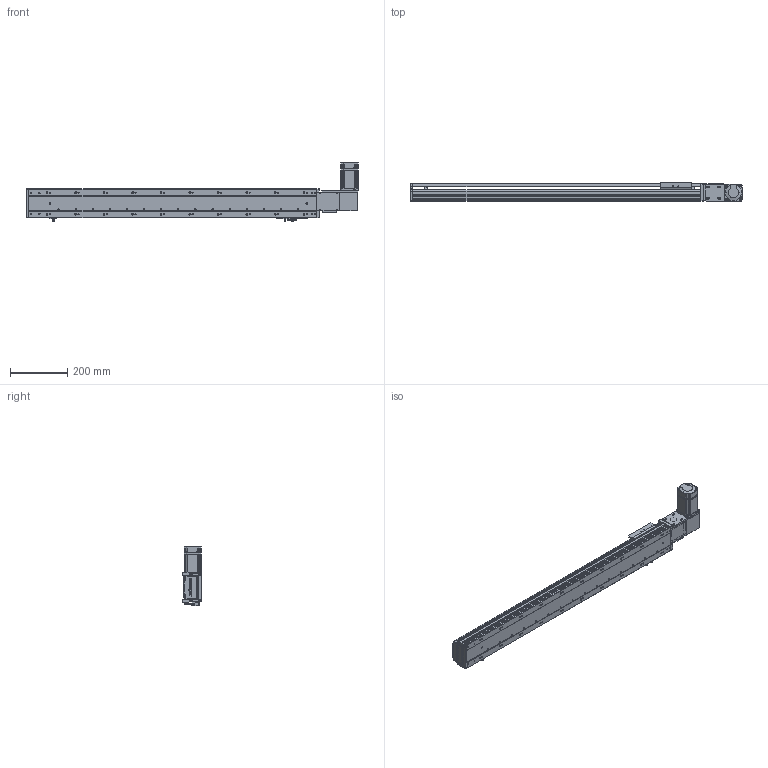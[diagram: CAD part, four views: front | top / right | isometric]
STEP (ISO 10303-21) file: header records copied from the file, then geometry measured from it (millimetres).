
FILE_DESCRIPTION (( 'STEP AP203' ), '1' );
FILE_NAME ('RY100-T-300-RK.SLDASM_800.step', '2024-04-25T08:22:16', ( '盈信电脑' ), ( '东莞市道滘镇水果街19号' ), 'SwSTEP 2.0', 'SolidWorks 2016', '' );
FILE_SCHEMA (( 'CONFIG_CONTROL_DESIGN' ));
Length unit declared in the file: millimetre
Products named in the file (15): RY80-T肮祭謫俋欶; RY100綴裔啣; 覜茼ん672; RY100俋离覜茼え; RY100-T肮祭謫翋盓傅釱; RY100-T翋肮祭謫裔啣2; RY100-T-300-RK倰第奻裔_800; RY100-T肮祭謫臏賑輸; RY100-T粣創揤踡裔; 滅袉蝶18-10; RY100-T-300-RK.SLDASM_800; 侂狟200W萇儂; RY100-T-300-RK倰第菁釱_800; 1; RY100-T左右折电机安装板
Assembly tree (18 placements, depth 3):
  RY100-T-300-RK.SLDASM_800
    RY100-T-300-RK倰第菁釱_800
    RY100-T-300-RK倰第奻裔_800
    RY100-T肮祭謫臏賑輸
    RY100綴裔啣
    覜茼ん672  x3
    RY100俋离覜茼え
    RY100-T肮祭謫翋盓傅釱
    RY100-T左右折电机安装板
    侂狟200W萇儂
      1
    RY100-T粣創揤踡裔
    滅袉蝶18-10  x2
    RY100-T翋肮祭謫裔啣2  x2
    RY80-T肮祭謫俋欶
Bounding box: 1164 x 66 x 209.7 mm (x, y, z)
Volume: 2301888.2 mm3; surface area: 938856.1 mm2
Topology: 17 solids, 17 shells, 2241 faces, 6264 edges, 4074 vertices
Faces by surface type: plane 1201, cylinder 825, cone 137, bspline 78
Entity records: 72284 total; most frequent: CARTESIAN_POINT 17735, ORIENTED_EDGE 11264, DIRECTION 10672, EDGE_CURVE 5632, VERTEX_POINT 3710, LINE 3600, VECTOR 3600, AXIS2_PLACEMENT_3D 3536
